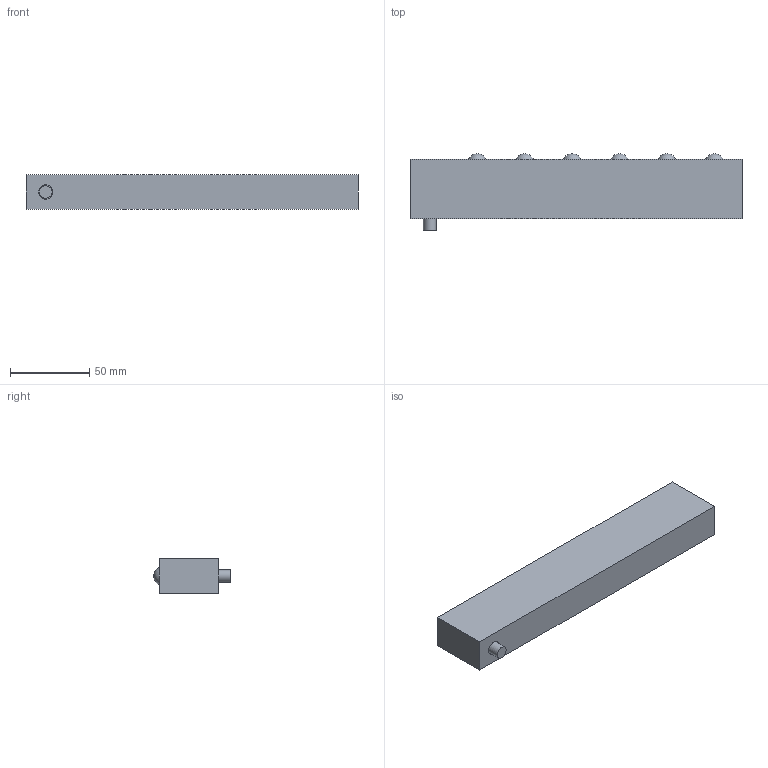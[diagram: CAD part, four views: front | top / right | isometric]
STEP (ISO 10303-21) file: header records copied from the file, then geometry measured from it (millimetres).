
FILE_DESCRIPTION(/* description */ (''),/* implementation_level */ '2;1');
FILE_NAME(/* name */ 'V:\Shrinkwrap\EMB\EMB - SHRINKWRAP\EMB22\EMB22-6_Shrinkwrap_1.stp',/* time_stamp */ '2022-08-12T10:27:33+02:00',/* author */ ('cw'),/* organization */ (''),/* preprocessor_version */ 'ST-DEVELOPER v17',/* originating_system */ 'Autodesk Inventor 2019',/* authorisation */ '');
FILE_SCHEMA (('AUTOMOTIVE_DESIGN { 1 0 10303 214 3 1 1 }'));
Length unit declared in the file: millimetre
Products named in the file (1): EMB22-6_Shrinkwrap_1
Bounding box: 210 x 48.46 x 21.8 mm (x, y, z)
Volume: 171569.9 mm3; surface area: 29202 mm2
Topology: 1 solids, 1 shells, 20 faces, 34 edges, 28 vertices
Faces by surface type: plane 10, sphere 6, cylinder 4
Full cylindrical faces by diameter (mm): 8 x1, 9 x1, 13 x1, 14 x1
Entity records: 574 total; most frequent: DIRECTION 90, CARTESIAN_POINT 81, ORIENTED_EDGE 64, AXIS2_PLACEMENT_3D 37, EDGE_CURVE 32, EDGE_LOOP 30, VERTEX_POINT 24, STYLED_ITEM 23
